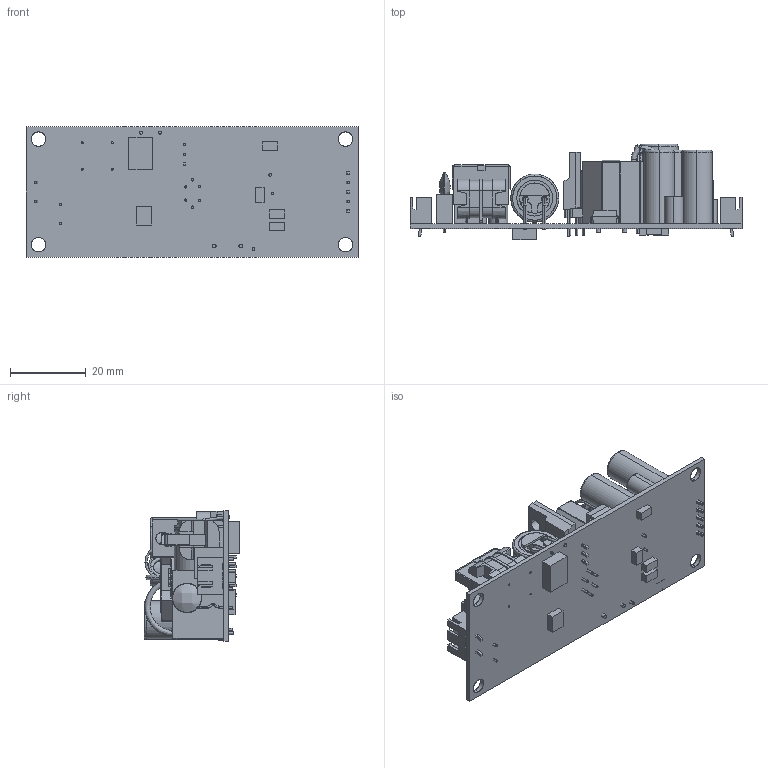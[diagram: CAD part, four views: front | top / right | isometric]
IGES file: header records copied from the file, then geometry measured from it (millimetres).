
Start section: SolidWorks IGES file using analytic representation for surfaces
Global section: file name: G:\Paul Lamb\CAD files to upload\ECL30UD03 UT02 UT03-T SPEC-1050929.IGS; native system: SolidWorks 2016; preprocessor: SolidWorks 2016; author: bhooper; date: 160929.084417; units: millimetre
Bounding box: 87.9 x 25.3 x 34.6 mm (x, y, z)
Surface area: 20345.2 mm2 (no closed solid volume)
Topology: 0 solids, 0 shells, 1062 faces, 8938 edges, 8938 vertices
Faces by surface type: bspline 819, revolution 243
